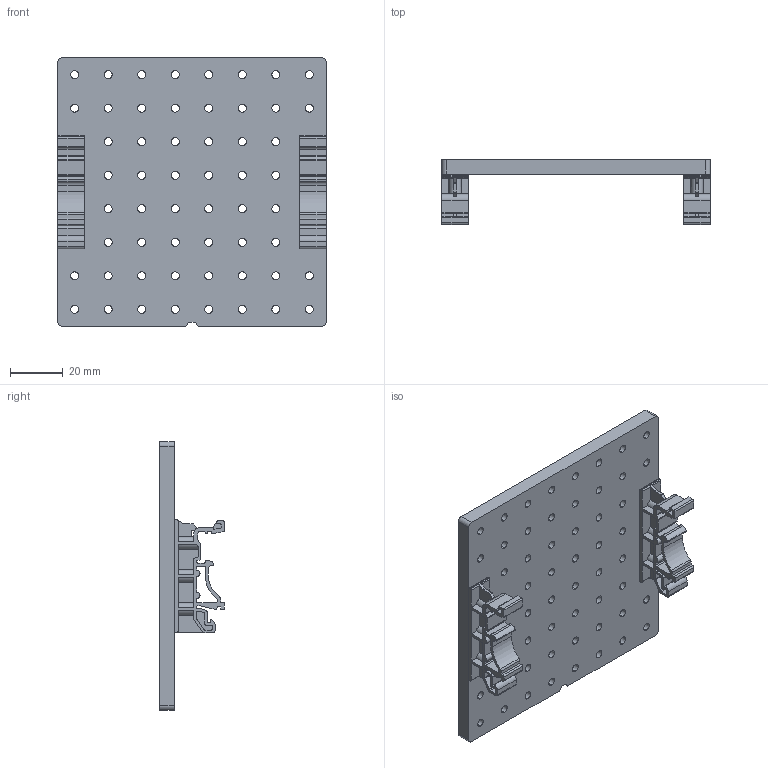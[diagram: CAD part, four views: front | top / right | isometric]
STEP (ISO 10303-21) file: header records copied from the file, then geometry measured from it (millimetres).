
FILE_DESCRIPTION (( 'STEP AP214' ), '1' );
FILE_NAME ('dinpp10-4040b2_rev_a.step', '2023-08-10T18:43:19', ( '' ), ( '' ), 'SwSTEP 2.0', 'SolidWorks 2018', '' );
FILE_SCHEMA (( 'AUTOMOTIVE_DESIGN' ));
Length unit declared in the file: inch
Products named in the file (4): #6 Flathead Screw 0.48 length; dinpp10-4040b2_rev_a; dinm01 (Modified Hole Depth); dinpp10-4040b2_plate
Assembly tree (7 placements, depth 2):
  dinpp10-4040b2_rev_a
    dinpp10-4040b2_plate
    dinm01 (Modified Hole Depth)  x2
    #6 Flathead Screw 0.48 length  x4
Bounding box: 101.6 x 24.57 x 101.6 mm (x, y, z)
Volume: 60599.3 mm3; surface area: 34528.6 mm2
Topology: 7 solids, 7 shells, 718 faces, 2026 edges, 1340 vertices
Faces by surface type: cylinder 355, plane 331, cone 32
Entity records: 13880 total; most frequent: DIRECTION 2472, CARTESIAN_POINT 2378, ORIENTED_EDGE 2316, EDGE_CURVE 1158, AXIS2_PLACEMENT_3D 908, VERTEX_POINT 766, LINE 656, VECTOR 656
